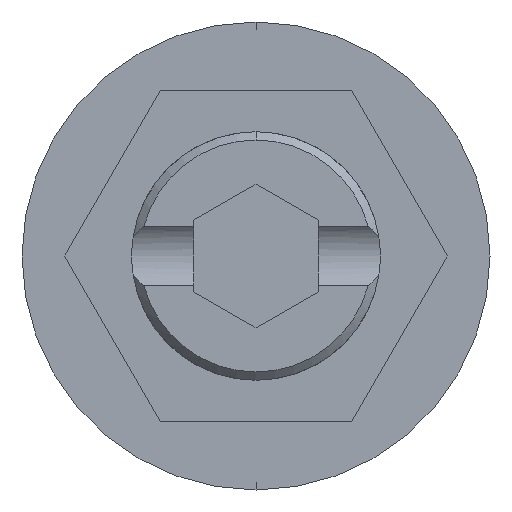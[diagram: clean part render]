
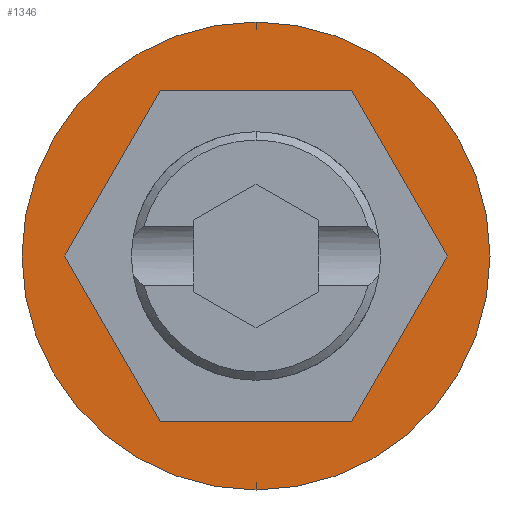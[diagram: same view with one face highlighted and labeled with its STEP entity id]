
A CAD part, front view. The second image highlights one B-rep face of the part: STEP entity #1346.
In plain terms, the highlighted planar face has unit normal (0, -1, 0).
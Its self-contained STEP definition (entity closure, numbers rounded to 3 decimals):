
#128 = DIRECTION ( 'NONE',  ( -0.5, 0., -0.866 ) ) ;
#151 = VERTEX_POINT ( 'NONE', #2532 ) ;
#259 = CARTESIAN_POINT ( 'NONE',  ( 0., 0., 0. ) ) ;
#334 = VERTEX_POINT ( 'NONE', #2166 ) ;
#343 = DIRECTION ( 'NONE',  ( 0.5, 0., -0.866 ) ) ;
#360 = CARTESIAN_POINT ( 'NONE',  ( -2.309, 0., 4. ) ) ;
#370 = EDGE_CURVE ( 'NONE', #334, #2204, #412, .T. ) ;
#375 = ORIENTED_EDGE ( 'NONE', *, *, #1340, .F. ) ;
#385 = ORIENTED_EDGE ( 'NONE', *, *, #621, .F. ) ;
#400 = CARTESIAN_POINT ( 'NONE',  ( 4.619, 0., 0. ) ) ;
#412 = LINE ( 'NONE', #2188, #989 ) ;
#446 = LINE ( 'NONE', #1060, #2435 ) ;
#472 = FACE_BOUND ( 'NONE', #2862, .T. ) ;
#544 = PLANE ( 'NONE',  #786 ) ;
#551 = DIRECTION ( 'NONE',  ( 0., -1., 0. ) ) ;
#561 = DIRECTION ( 'NONE',  ( 0., 0., -1. ) ) ;
#621 = EDGE_CURVE ( 'NONE', #1267, #151, #1190, .T. ) ;
#654 = VECTOR ( 'NONE', #343, 1000. ) ;
#662 = ORIENTED_EDGE ( 'NONE', *, *, #2241, .T. ) ;
#663 = CARTESIAN_POINT ( 'NONE',  ( 2.309, 0., -4. ) ) ;
#676 = CARTESIAN_POINT ( 'NONE',  ( -4.619, 0., 0. ) ) ;
#713 = LINE ( 'NONE', #3239, #3217 ) ;
#769 = CARTESIAN_POINT ( 'NONE',  ( 0., 0., 5.65 ) ) ;
#786 = AXIS2_PLACEMENT_3D ( 'NONE', #259, #551, #561 ) ;
#809 = DIRECTION ( 'NONE',  ( -1., 0., 0. ) ) ;
#880 = CIRCLE ( 'NONE', #901, 5.65 ) ;
#901 = AXIS2_PLACEMENT_3D ( 'NONE', #2490, #930, #2738 ) ;
#930 = DIRECTION ( 'NONE',  ( 0., -1., 0. ) ) ;
#989 = VECTOR ( 'NONE', #2478, 1000. ) ;
#996 = EDGE_CURVE ( 'NONE', #151, #3088, #446, .T. ) ;
#1027 = CIRCLE ( 'NONE', #1662, 5.65 ) ;
#1045 = EDGE_CURVE ( 'NONE', #1697, #1401, #1027, .T. ) ;
#1060 = CARTESIAN_POINT ( 'NONE',  ( 2.309, 0., 4. ) ) ;
#1153 = LINE ( 'NONE', #360, #2468 ) ;
#1190 = LINE ( 'NONE', #2662, #2573 ) ;
#1203 = DIRECTION ( 'NONE',  ( 0.5, 0., 0.866 ) ) ;
#1222 = CARTESIAN_POINT ( 'NONE',  ( 0., 0., -5.65 ) ) ;
#1264 = EDGE_CURVE ( 'NONE', #2856, #334, #2768, .T. ) ;
#1267 = VERTEX_POINT ( 'NONE', #400 ) ;
#1301 = ORIENTED_EDGE ( 'NONE', *, *, #1045, .T. ) ;
#1340 = EDGE_CURVE ( 'NONE', #3088, #2856, #1153, .T. ) ;
#1346 = ADVANCED_FACE ( 'NONE', ( #472, #3109 ), #544, .T. ) ;
#1401 = VERTEX_POINT ( 'NONE', #769 ) ;
#1662 = AXIS2_PLACEMENT_3D ( 'NONE', #3107, #2819, #2827 ) ;
#1697 = VERTEX_POINT ( 'NONE', #1222 ) ;
#1735 = CARTESIAN_POINT ( 'NONE',  ( -4.619, 0., 0. ) ) ;
#1745 = ORIENTED_EDGE ( 'NONE', *, *, #370, .F. ) ;
#2166 = CARTESIAN_POINT ( 'NONE',  ( -2.309, 0., -4. ) ) ;
#2188 = CARTESIAN_POINT ( 'NONE',  ( -2.309, 0., -4. ) ) ;
#2204 = VERTEX_POINT ( 'NONE', #663 ) ;
#2241 = EDGE_CURVE ( 'NONE', #1401, #1697, #880, .T. ) ;
#2383 = EDGE_CURVE ( 'NONE', #2204, #1267, #713, .T. ) ;
#2435 = VECTOR ( 'NONE', #809, 1000. ) ;
#2468 = VECTOR ( 'NONE', #128, 1000. ) ;
#2478 = DIRECTION ( 'NONE',  ( 1., 0., 0. ) ) ;
#2490 = CARTESIAN_POINT ( 'NONE',  ( 0., 0., 0. ) ) ;
#2525 = CARTESIAN_POINT ( 'NONE',  ( -2.309, 0., 4. ) ) ;
#2532 = CARTESIAN_POINT ( 'NONE',  ( 2.309, 0., 4. ) ) ;
#2549 = ORIENTED_EDGE ( 'NONE', *, *, #2383, .F. ) ;
#2573 = VECTOR ( 'NONE', #2781, 1000. ) ;
#2662 = CARTESIAN_POINT ( 'NONE',  ( 4.619, 0., 0. ) ) ;
#2738 = DIRECTION ( 'NONE',  ( 0., 0., -1. ) ) ;
#2768 = LINE ( 'NONE', #1735, #654 ) ;
#2780 = EDGE_LOOP ( 'NONE', ( #1301, #662 ) ) ;
#2781 = DIRECTION ( 'NONE',  ( -0.5, 0., 0.866 ) ) ;
#2819 = DIRECTION ( 'NONE',  ( 0., -1., 0. ) ) ;
#2827 = DIRECTION ( 'NONE',  ( 0., 0., -1. ) ) ;
#2856 = VERTEX_POINT ( 'NONE', #676 ) ;
#2862 = EDGE_LOOP ( 'NONE', ( #1745, #3135, #375, #3032, #385, #2549 ) ) ;
#3032 = ORIENTED_EDGE ( 'NONE', *, *, #996, .F. ) ;
#3088 = VERTEX_POINT ( 'NONE', #2525 ) ;
#3107 = CARTESIAN_POINT ( 'NONE',  ( 0., 0., 0. ) ) ;
#3109 = FACE_OUTER_BOUND ( 'NONE', #2780, .T. ) ;
#3135 = ORIENTED_EDGE ( 'NONE', *, *, #1264, .F. ) ;
#3217 = VECTOR ( 'NONE', #1203, 1000. ) ;
#3239 = CARTESIAN_POINT ( 'NONE',  ( 2.309, 0., -4. ) ) ;
